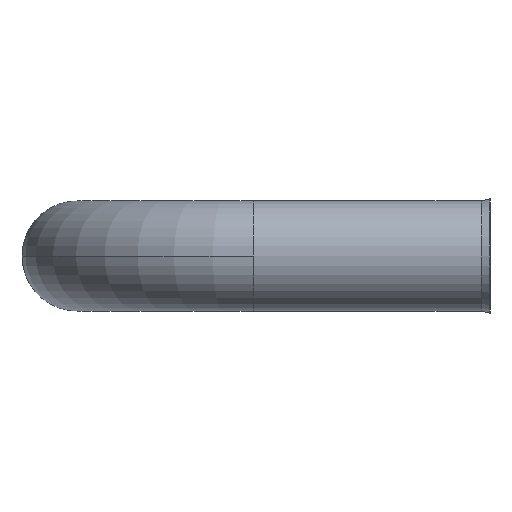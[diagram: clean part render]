
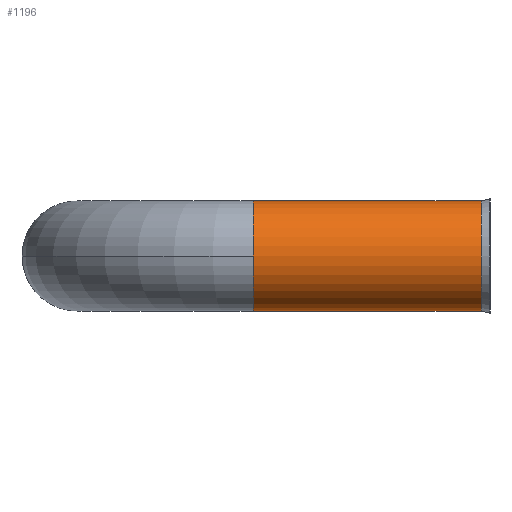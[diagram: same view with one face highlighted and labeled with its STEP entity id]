
A CAD part, left-side view. The second image highlights one B-rep face of the part: STEP entity #1196.
In plain terms, the highlighted cylindrical face has radius 10 mm (diameter 20 mm), a partial arc.
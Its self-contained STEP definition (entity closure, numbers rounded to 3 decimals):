
#20 = CIRCLE ( 'NONE', #726, 10. ) ;
#52 = EDGE_CURVE ( 'NONE', #916, #407, #20, .T. ) ;
#83 = CARTESIAN_POINT ( 'NONE',  ( -100., 43., -10. ) ) ;
#98 = CARTESIAN_POINT ( 'NONE',  ( -100., 43., -10. ) ) ;
#124 = DIRECTION ( 'NONE',  ( 0., 1., 0. ) ) ;
#134 = EDGE_CURVE ( 'NONE', #916, #953, #607, .T. ) ;
#170 = EDGE_CURVE ( 'NONE', #407, #810, #748, .T. ) ;
#235 = EDGE_LOOP ( 'NONE', ( #531, #908, #329, #451, #621 ) ) ;
#241 = DIRECTION ( 'NONE',  ( 0., 0., -1. ) ) ;
#249 = CARTESIAN_POINT ( 'NONE',  ( -100., 43., 10. ) ) ;
#284 = CARTESIAN_POINT ( 'NONE',  ( -100., 43., 0. ) ) ;
#285 = AXIS2_PLACEMENT_3D ( 'NONE', #432, #124, #641 ) ;
#286 = LINE ( 'NONE', #348, #449 ) ;
#299 = CYLINDRICAL_SURFACE ( 'NONE', #757, 10. ) ;
#313 = CARTESIAN_POINT ( 'NONE',  ( -100., 1.6, -10. ) ) ;
#329 = ORIENTED_EDGE ( 'NONE', *, *, #52, .F. ) ;
#348 = CARTESIAN_POINT ( 'NONE',  ( -100., 43., 10. ) ) ;
#381 = DIRECTION ( 'NONE',  ( 0., 0., -1. ) ) ;
#407 = VERTEX_POINT ( 'NONE', #1272 ) ;
#432 = CARTESIAN_POINT ( 'NONE',  ( -100., 43., 0. ) ) ;
#449 = VECTOR ( 'NONE', #658, 1000. ) ;
#451 = ORIENTED_EDGE ( 'NONE', *, *, #134, .T. ) ;
#479 = FACE_OUTER_BOUND ( 'NONE', #235, .T. ) ;
#482 = EDGE_CURVE ( 'NONE', #1043, #953, #1277, .T. ) ;
#496 = DIRECTION ( 'NONE',  ( 0., -1., 0. ) ) ;
#509 = EDGE_CURVE ( 'NONE', #810, #1043, #286, .T. ) ;
#531 = ORIENTED_EDGE ( 'NONE', *, *, #509, .F. ) ;
#607 = LINE ( 'NONE', #98, #1230 ) ;
#621 = ORIENTED_EDGE ( 'NONE', *, *, #482, .F. ) ;
#641 = DIRECTION ( 'NONE',  ( 0., 0., 1. ) ) ;
#651 = AXIS2_PLACEMENT_3D ( 'NONE', #885, #993, #241 ) ;
#658 = DIRECTION ( 'NONE',  ( 0., -1., 0. ) ) ;
#674 = DIRECTION ( 'NONE',  ( 0., 1., 0. ) ) ;
#726 = AXIS2_PLACEMENT_3D ( 'NONE', #284, #674, #877 ) ;
#748 = CIRCLE ( 'NONE', #285, 10. ) ;
#757 = AXIS2_PLACEMENT_3D ( 'NONE', #975, #1275, #381 ) ;
#810 = VERTEX_POINT ( 'NONE', #249 ) ;
#877 = DIRECTION ( 'NONE',  ( 0., 0., 1. ) ) ;
#885 = CARTESIAN_POINT ( 'NONE',  ( -100., 1.6, 0. ) ) ;
#908 = ORIENTED_EDGE ( 'NONE', *, *, #170, .F. ) ;
#916 = VERTEX_POINT ( 'NONE', #83 ) ;
#953 = VERTEX_POINT ( 'NONE', #313 ) ;
#975 = CARTESIAN_POINT ( 'NONE',  ( -100., 43., 0. ) ) ;
#993 = DIRECTION ( 'NONE',  ( 0., -1., 0. ) ) ;
#1043 = VERTEX_POINT ( 'NONE', #1148 ) ;
#1148 = CARTESIAN_POINT ( 'NONE',  ( -100., 1.6, 10. ) ) ;
#1196 = ADVANCED_FACE ( 'NONE', ( #479 ), #299, .T. ) ;
#1230 = VECTOR ( 'NONE', #496, 1000. ) ;
#1272 = CARTESIAN_POINT ( 'NONE',  ( -110., 43., 0. ) ) ;
#1275 = DIRECTION ( 'NONE',  ( 0., -1., 0. ) ) ;
#1277 = CIRCLE ( 'NONE', #651, 10. ) ;
